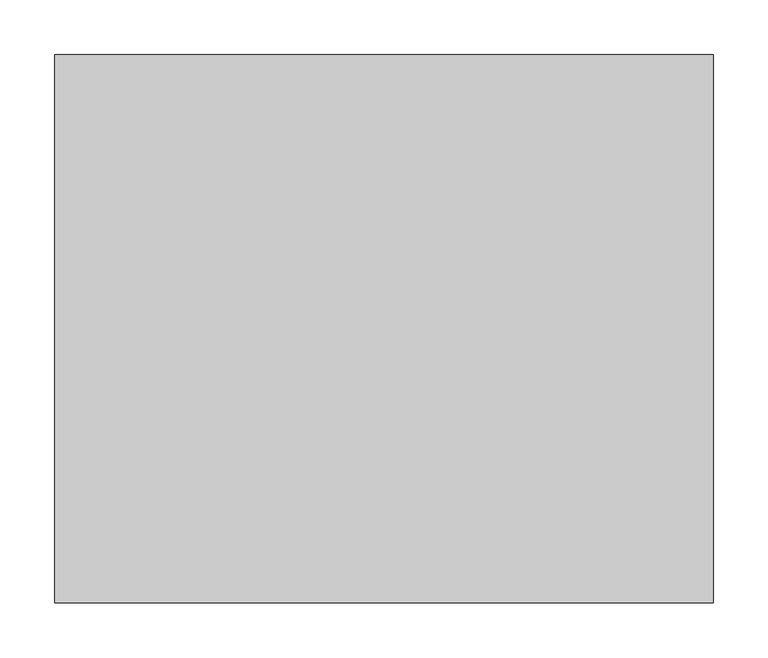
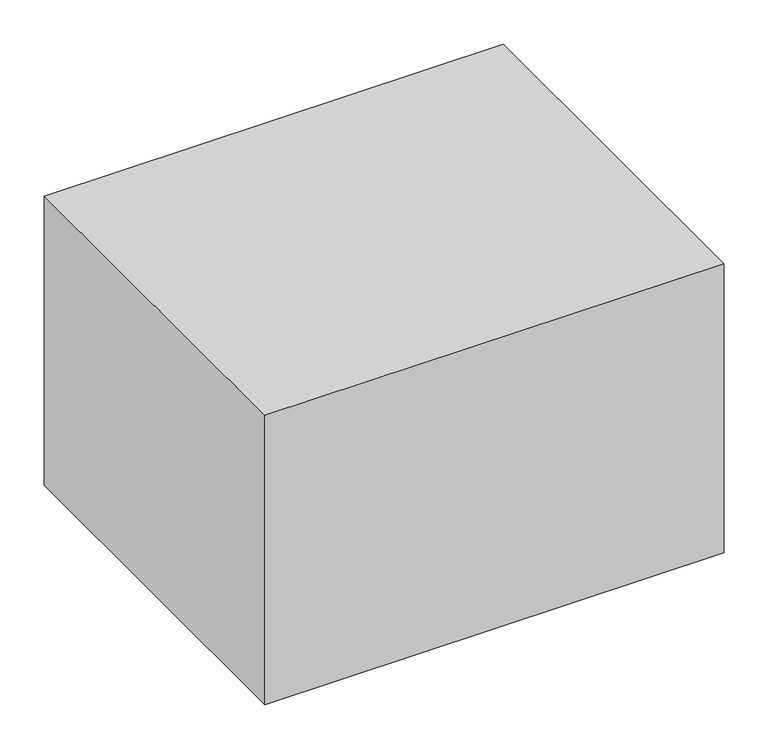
"""IFC4 building model written with IfcOpenShell, lengths in millimetres: geographic element geometry, r 低木密植 : 低木密植."""

from ifc_helpers import new_model, si_unit, origin, origin_with_axes, place, context, project, spatial, polyline, outline, extrude, source, transform, mapped, element, save


def geographic_element_54a3db66(model_context):
    return source(origin(), model_context, "Body", "SweptSolid", [
        extrude(outline(polyline([(0.0, 0.0), (0.0, 500.0), (600.0, 500.0), (600.0, 0.0), (0.0, 0.0)])), origin_with_axes(), (0.0, 0.0, 1.0), 400.0),
    ])


if __name__ == "__main__":
    model = new_model("IFC4")
    model_context = context("Model", 3, world=origin())
    ifc_project = project(units=[si_unit("LENGTHUNIT", "METRE", prefix="MILLI")], contexts=[model_context])
    site = spatial("IfcSite", under=ifc_project)
    building = spatial("IfcBuilding", under=site)
    placement = place(None, origin())
    geographic_element_shape = geographic_element_54a3db66(model_context)
    element("IfcGeographicElement", 1, ObjectType="r 低木密植 : 低木密植", at=placement, inside=building, context=model_context, shape_type="MappedRepresentation", body=[
        mapped(geographic_element_shape, transform((0.0, 0.0, 0.0), x_axis=(1.0, 0.0, 0.0), y_axis=(0.0, 1.0, 0.0), z_axis=(0.0, 0.0, 1.0))),
    ])
    save(model, "model.ifc")
